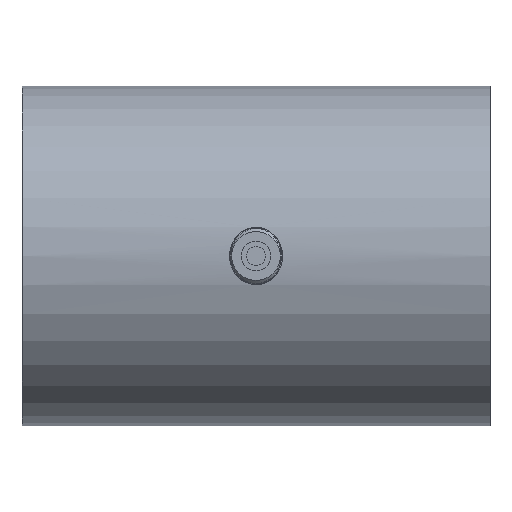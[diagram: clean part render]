
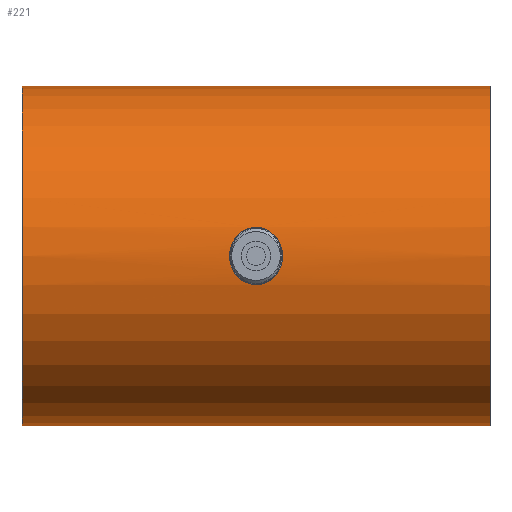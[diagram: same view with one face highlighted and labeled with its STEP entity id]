
A CAD part, front view. The second image highlights one B-rep face of the part: STEP entity #221.
In plain terms, the highlighted cylindrical face has radius 90.8 mm (diameter 181.6 mm), a full revolution.
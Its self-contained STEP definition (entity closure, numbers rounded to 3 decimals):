
#185=CYLINDRICAL_SURFACE('',#978,90.8);
#211=B_SPLINE_CURVE_WITH_KNOTS('',3,(#1375,#1376,#1377,#1378,#1379,#1380,
#1381,#1382,#1383,#1384,#1385,#1386,#1387,#1388,#1389,#1390,#1391,#1392,
#1393,#1394,#1395,#1396),.UNSPECIFIED.,.T.,.F.,(2,2,2,2,2,2,2,2,2,2,2,2,
2),(-0.063,0.,0.125,0.25,0.375,0.437,
0.5,0.625,0.75,0.875,
0.938,1.,1.125),.UNSPECIFIED.);
#212=B_SPLINE_CURVE_WITH_KNOTS('',3,(#1398,#1399,#1400,#1401,#1402,#1403,
#1404,#1405,#1406,#1407,#1408,#1409,#1410,#1411,#1412,#1413,#1414,#1415,
#1416,#1417,#1418,#1419),.UNSPECIFIED.,.T.,.F.,(2,2,2,2,2,2,2,2,2,2,2,2,
2),(-0.125,0.,0.062,0.125,0.25,0.375,
0.5,0.562,0.625,0.75,
0.875,1.,1.063),.UNSPECIFIED.);
#221=ADVANCED_FACE('',(#317,#318,#319,#320),#185,.T.);
#317=FACE_BOUND('',#431,.T.);
#318=FACE_BOUND('',#432,.T.);
#319=FACE_BOUND('',#433,.T.);
#320=FACE_BOUND('',#434,.T.);
#431=EDGE_LOOP('',(#559));
#432=EDGE_LOOP('',(#560));
#433=EDGE_LOOP('',(#561));
#434=EDGE_LOOP('',(#562));
#559=ORIENTED_EDGE('',*,*,#823,.T.);
#560=ORIENTED_EDGE('',*,*,#824,.T.);
#561=ORIENTED_EDGE('',*,*,#819,.T.);
#562=ORIENTED_EDGE('',*,*,#821,.T.);
#739=VERTEX_POINT('',#1366);
#741=VERTEX_POINT('',#1371);
#743=VERTEX_POINT('',#1397);
#744=VERTEX_POINT('',#1420);
#819=EDGE_CURVE('',#739,#739,#911,.T.);
#821=EDGE_CURVE('',#741,#741,#913,.T.);
#823=EDGE_CURVE('',#743,#743,#211,.T.);
#824=EDGE_CURVE('',#744,#744,#212,.T.);
#911=CIRCLE('',#972,90.8);
#913=CIRCLE('',#975,90.8);
#972=AXIS2_PLACEMENT_3D('',#1365,#1096,#1097);
#975=AXIS2_PLACEMENT_3D('',#1370,#1102,#1103);
#978=AXIS2_PLACEMENT_3D('',#1421,#1108,#1109);
#1096=DIRECTION('',(-1.,0.,0.));
#1097=DIRECTION('',(0.,0.,1.));
#1102=DIRECTION('',(1.,0.,0.));
#1103=DIRECTION('',(0.,0.,-1.));
#1108=DIRECTION('',(1.,0.,0.));
#1109=DIRECTION('',(0.,0.,-1.));
#1365=CARTESIAN_POINT('',(125.,-48.3,125.));
#1366=CARTESIAN_POINT('',(125.,-48.3,215.8));
#1370=CARTESIAN_POINT('',(-125.,-48.3,125.));
#1371=CARTESIAN_POINT('',(-125.,-48.3,34.2));
#1375=CARTESIAN_POINT('',(-2.298,-137.806,109.715));
#1376=CARTESIAN_POINT('',(-7.848,-138.111,111.573));
#1377=CARTESIAN_POINT('',(-10.853,-138.549,114.427));
#1378=CARTESIAN_POINT('',(-14.215,-139.092,121.339));
#1379=CARTESIAN_POINT('',(-14.602,-139.175,125.457));
#1380=CARTESIAN_POINT('',(-12.646,-138.833,132.889));
#1381=CARTESIAN_POINT('',(-10.282,-138.42,136.281));
#1382=CARTESIAN_POINT('',(-5.389,-137.969,139.326));
#1383=CARTESIAN_POINT('',(-3.54,-137.852,140.003));
#1384=CARTESIAN_POINT('',(0.316,-137.77,140.486));
#1385=CARTESIAN_POINT('',(2.284,-137.806,140.286));
#1386=CARTESIAN_POINT('',(7.813,-138.108,138.445));
#1387=CARTESIAN_POINT('',(10.832,-138.546,135.61));
#1388=CARTESIAN_POINT('',(14.228,-139.094,128.638));
#1389=CARTESIAN_POINT('',(14.605,-139.176,124.548));
#1390=CARTESIAN_POINT('',(12.639,-138.832,117.092));
#1391=CARTESIAN_POINT('',(10.262,-138.417,113.7));
#1392=CARTESIAN_POINT('',(5.375,-137.968,110.669));
#1393=CARTESIAN_POINT('',(3.504,-137.851,109.99));
#1394=CARTESIAN_POINT('',(-0.316,-137.77,109.517));
#1395=CARTESIAN_POINT('',(-2.298,-137.806,109.715));
#1396=CARTESIAN_POINT('',(-7.848,-138.111,111.573));
#1397=CARTESIAN_POINT('',(-4.148,-137.908,110.334));
#1398=CARTESIAN_POINT('',(-7.848,41.511,111.573));
#1399=CARTESIAN_POINT('',(-2.298,41.206,109.715));
#1400=CARTESIAN_POINT('',(-0.332,41.17,109.516));
#1401=CARTESIAN_POINT('',(3.497,41.251,109.988));
#1402=CARTESIAN_POINT('',(5.363,41.367,110.662));
#1403=CARTESIAN_POINT('',(10.275,41.818,113.707));
#1404=CARTESIAN_POINT('',(12.645,42.233,117.093));
#1405=CARTESIAN_POINT('',(14.61,42.577,124.589));
#1406=CARTESIAN_POINT('',(14.213,42.492,128.674));
#1407=CARTESIAN_POINT('',(10.84,41.947,135.59));
#1408=CARTESIAN_POINT('',(7.832,41.51,138.429));
#1409=CARTESIAN_POINT('',(2.322,41.207,140.279));
#1410=CARTESIAN_POINT('',(0.37,41.17,140.486));
#1411=CARTESIAN_POINT('',(-3.508,41.251,140.013));
#1412=CARTESIAN_POINT('',(-5.361,41.367,139.339));
#1413=CARTESIAN_POINT('',(-10.273,41.818,136.295));
#1414=CARTESIAN_POINT('',(-12.642,42.232,132.907));
#1415=CARTESIAN_POINT('',(-14.607,42.576,125.435));
#1416=CARTESIAN_POINT('',(-14.226,42.494,121.358));
#1417=CARTESIAN_POINT('',(-10.835,41.946,114.395));
#1418=CARTESIAN_POINT('',(-7.848,41.511,111.573));
#1419=CARTESIAN_POINT('',(-2.298,41.206,109.715));
#1420=CARTESIAN_POINT('',(-4.148,41.308,110.334));
#1421=CARTESIAN_POINT('',(-125.,-48.3,125.));
